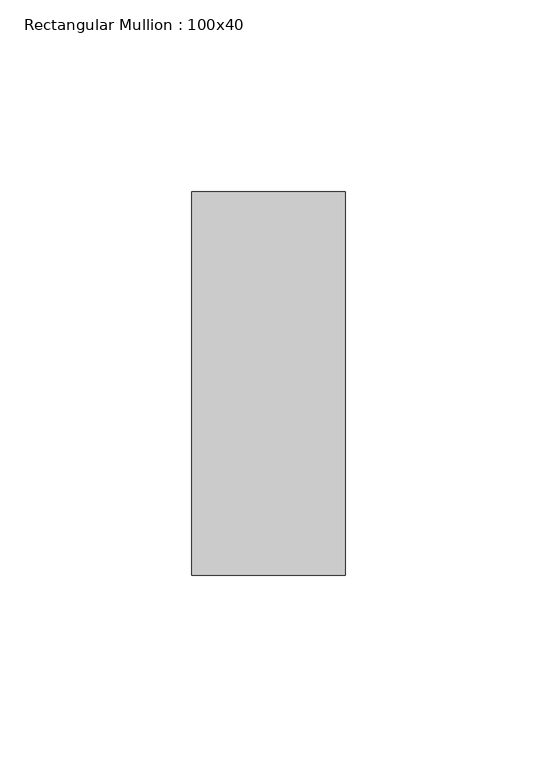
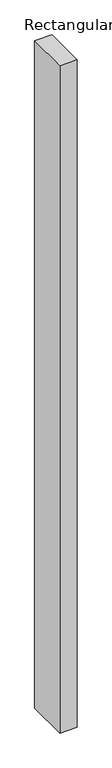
"""IFC4 building model written with IfcOpenShell, lengths in millimetres: member geometry, Rectangular Mullion : 100x40."""

import ifcopenshell
import ifcopenshell.guid

model = None  # the IFC model being written
_history = None  # IfcOwnerHistory: only IFC2X3 demands one
_inside = {}  # id of a spatial element -> (the spatial element, [elements in it])
_under = {}  # id of a project, library or spatial element -> (it, [spatial elements below it])
_declared = {}  # id of a project -> (the project, [libraries it declares])
_typed = {}  # id of a type object -> (the type object, [elements of that type])
_made_of = {}  # id of a material, layer set ... -> (it, [elements and type objects made of it])


def new_model(schema):
    """Start an empty IFC model of exactly this schema.

    Asked for "IFC4X3", IfcOpenShell would pick the latest addendum, in which some entities
    have other attributes; the version numbers below select the first issue.
    IFC2X3 requires an IfcOwnerHistory on every rooted entity: one is made here for all.
    """
    global model, _history
    if schema == "IFC4X3":
        model = ifcopenshell.file(schema_version=(4, 3, 0, 0))
    else:
        model = ifcopenshell.file(schema=schema)
    _inside.clear()
    _under.clear()
    _declared.clear()
    _typed.clear()
    _made_of.clear()
    _history = None
    if model.schema == "IFC2X3":
        org = make("IfcOrganization", Name="unknown")
        user = make(
            "IfcPersonAndOrganization",
            ThePerson=make("IfcPerson", FamilyName="unknown"),
            TheOrganization=org,
        )
        app = make(
            "IfcApplication",
            ApplicationDeveloper=org,
            Version="unknown",
            ApplicationFullName="unknown",
            ApplicationIdentifier="unknown",
        )
        _history = make(
            "IfcOwnerHistory",
            OwningUser=user,
            OwningApplication=app,
            ChangeAction="ADDED",
            CreationDate=0,
        )
    return model


def make(cls, **values):
    """One entity of the class cls with the attributes given. An attribute that is None is left unset."""
    return model.create_entity(
        cls, **{name: value for name, value in values.items() if value is not None}
    )


def rooted(cls, **values):
    """An entity with a GlobalId (a new one), such as an element, a storey or a relation."""
    return make(cls, GlobalId=ifcopenshell.guid.new(), OwnerHistory=_history, **values)


def si_unit(unit_type, name, prefix=None):
    """IfcSIUnit, for example si_unit("LENGTHUNIT", "METRE", prefix="MILLI")."""
    return make("IfcSIUnit", UnitType=unit_type, Prefix=prefix, Name=name)


def assignment(units):
    """IfcUnitAssignment: the units of a project."""
    return None if units is None else make("IfcUnitAssignment", Units=units)


def point(xyz):
    """IfcCartesianPoint."""
    return None if xyz is None else make("IfcCartesianPoint", Coordinates=xyz)


def direction(xyz):
    """IfcDirection."""
    return None if xyz is None else make("IfcDirection", DirectionRatios=xyz)


def frame(location, z_axis=None, x_axis=None):
    """IfcAxis2Placement3D, a coordinate frame: its origin and axes. An axis left out is left unset."""
    return make(
        "IfcAxis2Placement3D",
        Location=point(location),
        Axis=direction(z_axis),
        RefDirection=direction(x_axis),
    )


def origin():
    """The frame at (0, 0, 0) with its axes left unset."""
    return frame((0.0, 0.0, 0.0))


def place(relative_to, where):
    """IfcLocalPlacement: puts the frame where relative to a parent placement (None: the world)."""
    return make(
        "IfcLocalPlacement", PlacementRelTo=relative_to, RelativePlacement=where
    )


def context(
    kind, dimensions, precision=None, world=None, true_north=None, identifier=None
):
    """IfcGeometricRepresentationContext, for example the 3D "Model" context."""
    return make(
        "IfcGeometricRepresentationContext",
        ContextIdentifier=identifier,
        ContextType=kind,
        CoordinateSpaceDimension=dimensions,
        Precision=precision,
        WorldCoordinateSystem=world,
        TrueNorth=true_north,
    )


def project(units=None, contexts=None):
    """IfcProject with its units and contexts."""
    return rooted(
        "IfcProject",
        Name="project",
        RepresentationContexts=contexts,
        UnitsInContext=assignment(units),
    )


def spatial(cls, under=None, at=None, **own):
    """A site, building, storey or space (cls), placed at a placement, below another one or the project."""
    s = rooted(cls, ObjectPlacement=at, **own)
    if under is not None:
        _under.setdefault(under.id(), (under, []))[1].append(s)
    return s


def polyline(points):
    """IfcPolyline through the points."""
    return make("IfcPolyline", Points=[point(p) for p in points])


def outline(outer, holes=None, kind="AREA"):
    """IfcArbitraryClosedProfileDef: a profile drawn as a closed curve; with holes, ...WithVoids."""
    if holes is None:
        return make("IfcArbitraryClosedProfileDef", ProfileType=kind, OuterCurve=outer)
    return make(
        "IfcArbitraryProfileDefWithVoids",
        ProfileType=kind,
        OuterCurve=outer,
        InnerCurves=holes,
    )


def extrude(swept, where, along, depth):
    """IfcExtrudedAreaSolid: the profile swept, set in the frame where, extruded along a direction by depth."""
    return make(
        "IfcExtrudedAreaSolid",
        SweptArea=swept,
        Position=where,
        ExtrudedDirection=direction(along),
        Depth=depth,
    )


def shape(context_of_items, identifier, shape_type, items):
    """IfcShapeRepresentation: the items that make up one representation, for example the "Body"."""
    return make(
        "IfcShapeRepresentation",
        ContextOfItems=context_of_items,
        RepresentationIdentifier=identifier,
        RepresentationType=shape_type,
        Items=items,
    )


def source(mapping_origin, context_of_items, identifier, shape_type, items):
    """IfcRepresentationMap: a shape defined once, which mapped items show again and again."""
    return make(
        "IfcRepresentationMap",
        MappingOrigin=mapping_origin,
        MappedRepresentation=shape(context_of_items, identifier, shape_type, items),
    )


def transform(
    local_origin,
    x_axis=None,
    y_axis=None,
    z_axis=None,
    scale=None,
    scale2=None,
    scale3=None,
    uniform=True,
):
    """IfcCartesianTransformationOperator3D, or its non-uniform kind. x_axis, y_axis, z_axis: its Axis1, 2, 3."""
    if uniform:
        return make(
            "IfcCartesianTransformationOperator3D",
            Axis1=direction(x_axis),
            Axis2=direction(y_axis),
            LocalOrigin=point(local_origin),
            Scale=scale,
            Axis3=direction(z_axis),
        )
    return make(
        "IfcCartesianTransformationOperator3DnonUniform",
        Axis1=direction(x_axis),
        Axis2=direction(y_axis),
        LocalOrigin=point(local_origin),
        Scale=scale,
        Axis3=direction(z_axis),
        Scale2=scale2,
        Scale3=scale3,
    )


def mapped(mapping_source, mapping_target):
    """IfcMappedItem: shows the shape of a source again, moved by a transform."""
    return make(
        "IfcMappedItem", MappingSource=mapping_source, MappingTarget=mapping_target
    )


def made_of(thing, what):
    """Note that an element or type object is made of a material, layer set ...; save() writes the relation."""
    if what is not None:
        _made_of.setdefault(what.id(), (what, []))[1].append(thing)
    return thing


def element(
    cls,
    number,
    at=None,
    inside=None,
    cuts=None,
    type_object=None,
    material=None,
    context=None,
    identifier="Body",
    shape_type=None,
    held_by="IfcProductDefinitionShape",
    body=None,
    shapes=None,
    **own,
):
    """One element of the class cls, such as IfcWall. Its Tag is "e" and its number.

    at: its placement. inside: the storey or other place that contains it. cuts: it is an
    opening in that element (IfcRelVoidsElement). A single representation is given by context,
    identifier, shape_type and body (its items); several are given by shapes. held_by: the class
    of the entity that holds the representations. save() writes the other relations.
    """
    e = rooted(cls, Tag="e%d" % number, ObjectPlacement=at, **own)
    if body is not None:
        shapes = [shape(context, identifier, shape_type, body)]
    if shapes is not None:
        e.Representation = make(held_by, Representations=shapes)
    if inside is not None:
        _inside.setdefault(inside.id(), (inside, []))[1].append(e)
    if cuts is not None:
        rooted(
            "IfcRelVoidsElement", RelatingBuildingElement=cuts, RelatedOpeningElement=e
        )
    if type_object is not None:
        _typed.setdefault(type_object.id(), (type_object, []))[1].append(e)
    return made_of(e, material)


def aggregate(whole, parts):
    """IfcRelAggregates: a whole, such as a stair, and the parts it consists of."""
    return rooted("IfcRelAggregates", RelatingObject=whole, RelatedObjects=parts)


def save(model, path):
    """Write the relations noted so far, then the file.

    IfcRelAggregates (storeys below a building ...), IfcRelContainedInSpatialStructure (elements
    in a storey), IfcRelDefinesByType, IfcRelAssociatesMaterial and IfcRelDeclares: one each for
    every whole, place, type object, material and project.
    """
    for whole, parts in _under.values():
        aggregate(whole, parts)
    for where, things in _inside.values():
        rooted(
            "IfcRelContainedInSpatialStructure",
            RelatedElements=things,
            RelatingStructure=where,
        )
    for kind, things in _typed.values():
        rooted("IfcRelDefinesByType", RelatedObjects=things, RelatingType=kind)
    for what, things in _made_of.values():
        rooted("IfcRelAssociatesMaterial", RelatedObjects=things, RelatingMaterial=what)
    for by, libraries in _declared.values():
        rooted("IfcRelDeclares", RelatingContext=by, RelatedDefinitions=libraries)
    model.write(path)


def rectangular_mullion_100x40_fb3735f2(model_context):
    return source(origin(), model_context, "Body", "SweptSolid", [
        extrude(outline(polyline([(20.0, 50.0), (20.0, -50.0), (-20.0, -50.0), (-20.0, 50.0), (20.0, 50.0)])), frame((0.0, 0.0, -1621.0), z_axis=(0.0, 0.0, 1.0), x_axis=(1.0, 0.0, 0.0)), (0.0, 0.0, 1.0), 1621.0),
    ])


if __name__ == "__main__":
    model = new_model("IFC4")
    model_context = context("Model", 3, world=origin())
    ifc_project = project(units=[si_unit("LENGTHUNIT", "METRE", prefix="MILLI")], contexts=[model_context])
    site = spatial("IfcSite", under=ifc_project)
    building = spatial("IfcBuilding", under=site)
    placement = place(None, origin())
    rectangular_mullion_100x40_shape = rectangular_mullion_100x40_fb3735f2(model_context)
    element("IfcMember", 1, ObjectType="Rectangular Mullion : 100x40", at=placement, inside=building, context=model_context, shape_type="MappedRepresentation", body=[
        mapped(rectangular_mullion_100x40_shape, transform((0.0, 0.0, 0.0), x_axis=(1.0, 0.0, 0.0), y_axis=(0.0, 1.0, 0.0), z_axis=(0.0, 0.0, 1.0))),
    ])
    save(model, "model.ifc")
